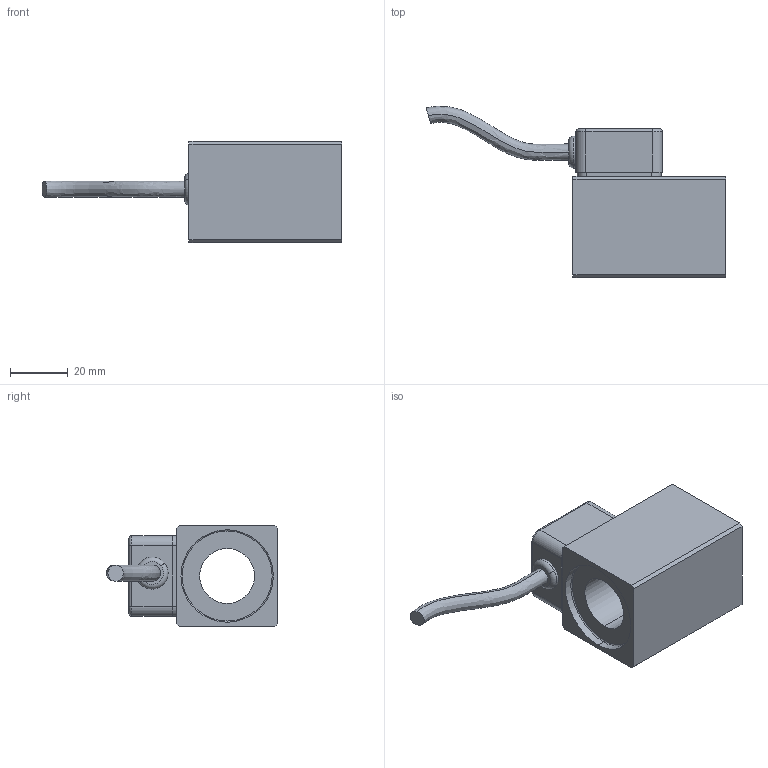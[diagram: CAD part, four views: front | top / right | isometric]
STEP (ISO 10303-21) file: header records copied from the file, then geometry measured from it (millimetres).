
FILE_DESCRIPTION (( 'STEP AP214' ), '1' );
FILE_NAME ('NKS35_19x50.STEP', '2015-07-28T13:54:11', ( '' ), ( '' ), 'SwSTEP 2.0', 'SolidWorks 2014', '' );
FILE_SCHEMA (( 'AUTOMOTIVE_DESIGN' ));
Length unit declared in the file: millimetre
Products named in the file (2): NKS35_19x50
Bounding box: 103.91 x 59.34 x 35 mm (x, y, z)
Volume: 62396.1 mm3; surface area: 16808.1 mm2
Topology: 2 solids, 4 shells, 131 faces, 310 edges, 198 vertices
Faces by surface type: plane 55, cylinder 42, torus 20, bspline 8, cone 6
Entity records: 5572 total; most frequent: CARTESIAN_POINT 1025, DIRECTION 694, ORIENTED_EDGE 620, EDGE_CURVE 310, AXIS2_PLACEMENT_3D 283, VERTEX_POINT 198, CIRCLE 158, EDGE_LOOP 152
